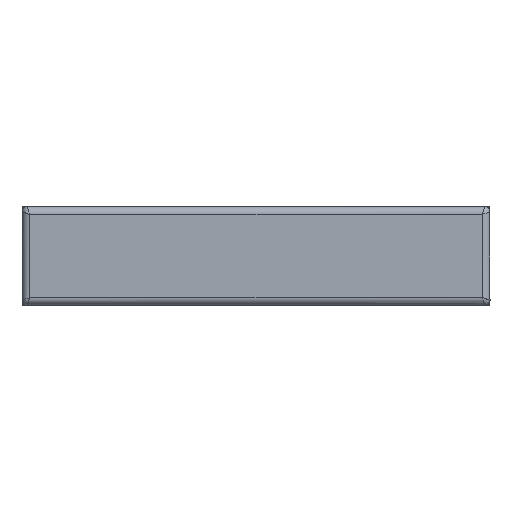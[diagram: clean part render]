
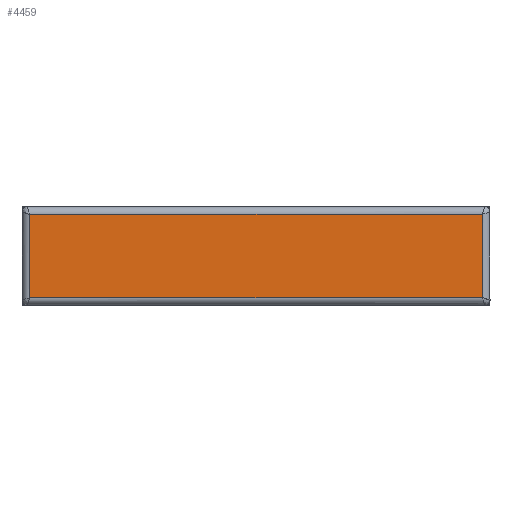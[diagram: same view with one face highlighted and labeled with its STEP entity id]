
A CAD part, front view. The second image highlights one B-rep face of the part: STEP entity #4459.
In plain terms, the highlighted planar face has unit normal (0, -1, 0) as drawn and (0, 0, -1) by its records, which use the part's own axes.
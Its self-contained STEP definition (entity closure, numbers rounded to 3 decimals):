
#3942=CARTESIAN_POINT('',(-8.,43.5,0.0));
#3943=VERTEX_POINT('',#3942);
#4037=CARTESIAN_POINT('',(8.,43.5,0.));
#4038=VERTEX_POINT('',#4037);
#4078=CARTESIAN_POINT('',(8.,43.5,0.0));
#4079=DIRECTION('',(-1.0,0.0,0.0));
#4080=VECTOR('',#4079,16.0);
#4081=LINE('',#4078,#4080);
#4082=EDGE_CURVE('',#4038,#3943,#4081,.T.);
#4154=CARTESIAN_POINT('',(-8.,-43.5,0.));
#4155=VERTEX_POINT('',#4154);
#4249=CARTESIAN_POINT('',(8.,-43.5,0.0));
#4250=VERTEX_POINT('',#4249);
#4290=CARTESIAN_POINT('',(8.,-43.5,0.0));
#4291=DIRECTION('',(0.0,1.0,0.0));
#4292=VECTOR('',#4291,87.0);
#4293=LINE('',#4290,#4292);
#4294=EDGE_CURVE('',#4250,#4038,#4293,.T.);
#4305=CARTESIAN_POINT('',(-8.,-43.5,0.0));
#4306=DIRECTION('',(1.0,0.0,0.0));
#4307=VECTOR('',#4306,16.);
#4308=LINE('',#4305,#4307);
#4309=EDGE_CURVE('',#4155,#4250,#4308,.T.);
#4327=CARTESIAN_POINT('',(-8.,43.5,0.0));
#4328=DIRECTION('',(0.0,-1.0,0.0));
#4329=VECTOR('',#4328,87.0);
#4330=LINE('',#4327,#4329);
#4331=EDGE_CURVE('',#3943,#4155,#4330,.T.);
#4448=CARTESIAN_POINT('',(0.,0.,0.0));
#4449=DIRECTION('',(0.0,0.0,1.0));
#4450=DIRECTION('',(1.0,0.0,0.0));
#4451=AXIS2_PLACEMENT_3D('',#4448,#4449,#4450);
#4452=PLANE('',#4451);
#4453=ORIENTED_EDGE('',*,*,#4082,.F.);
#4454=ORIENTED_EDGE('',*,*,#4294,.F.);
#4455=ORIENTED_EDGE('',*,*,#4309,.F.);
#4456=ORIENTED_EDGE('',*,*,#4331,.F.);
#4457=EDGE_LOOP('',(#4453,#4454,#4455,#4456));
#4458=FACE_OUTER_BOUND('',#4457,.T.);
#4459=ADVANCED_FACE('',(#4458),#4452,.F.);
